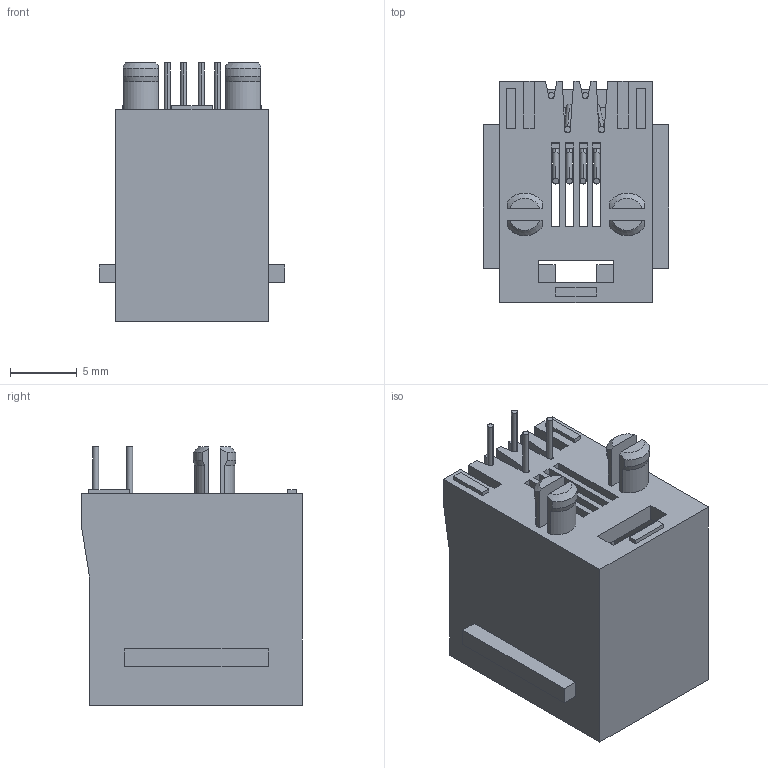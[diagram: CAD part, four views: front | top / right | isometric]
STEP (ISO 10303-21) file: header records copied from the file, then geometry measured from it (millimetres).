
FILE_DESCRIPTION((''),'2;1');
FILE_NAME('DGKYD5222E1144IWA1DY1017','2019-03-20T',('Administrator'),(''),'PRO/ENGINEER BY PARAMETRIC TECHNOLOGY CORPORATION, 2008380','PRO/ENGINEER BY PARAMETRIC TECHNOLOGY CORPORATION, 2008380','');
FILE_SCHEMA(('CONFIG_CONTROL_DESIGN'));
Length unit declared in the file: millimetre
Products named in the file (1): DGKYD5222E1144IWA1DY1017
Bounding box: 13.85 x 16.5 x 19.3 mm (x, y, z)
Volume: 1713.7 mm3; surface area: 2370.4 mm2
Topology: 1 solids, 5 shells, 286 faces, 818 edges, 536 vertices
Faces by surface type: plane 202, cylinder 44, torus 24, cone 8, bspline 8
Entity records: 9694 total; most frequent: CARTESIAN_POINT 2122, ORIENTED_EDGE 1620, DIRECTION 1490, EDGE_CURVE 818, VECTOR 596, LINE 596, VERTEX_POINT 536, AXIS2_PLACEMENT_3D 447
